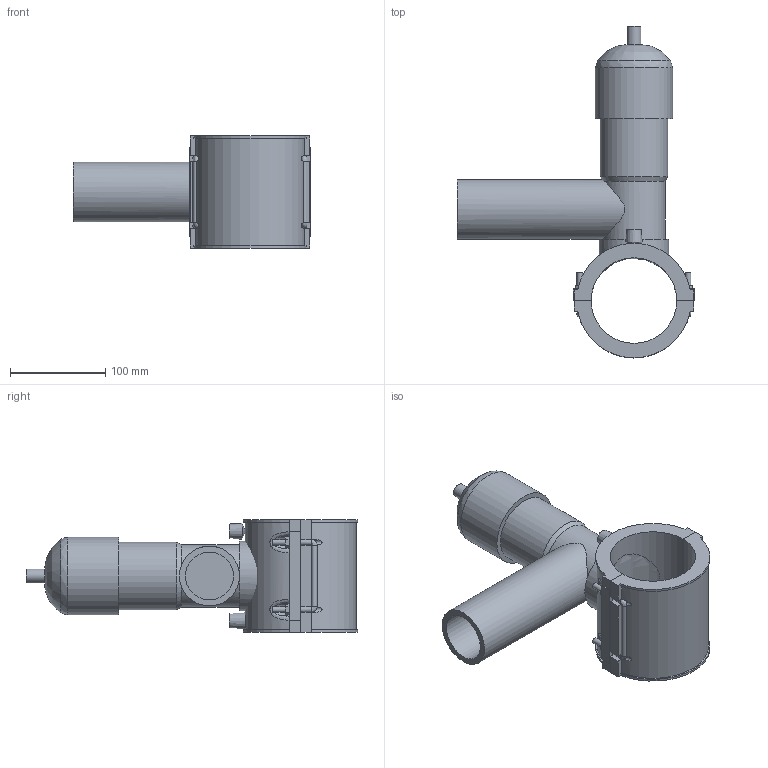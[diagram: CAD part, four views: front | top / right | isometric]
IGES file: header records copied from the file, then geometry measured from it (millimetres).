
Global section: file name: 495404090063.ipt; native system: Autodesk Inventor 2015; preprocessor: unknown; author: KIM; date: 20171106.094245; units: millimetre
Bounding box: 250 x 349.25 x 118 mm (x, y, z)
Volume: 1607150.2 mm3; surface area: 230065.5 mm2
Topology: 3 solids, 3 shells, 157 faces, 395 edges, 257 vertices
Faces by surface type: plane 99, cylinder 27, revolution 20, cone 7, bspline 4
Full cylindrical faces by diameter (mm): 4 x2, 6 x8, 14.64 x1, 63 x1, 70.76 x1, 73.2 x1, 81.333 x1
